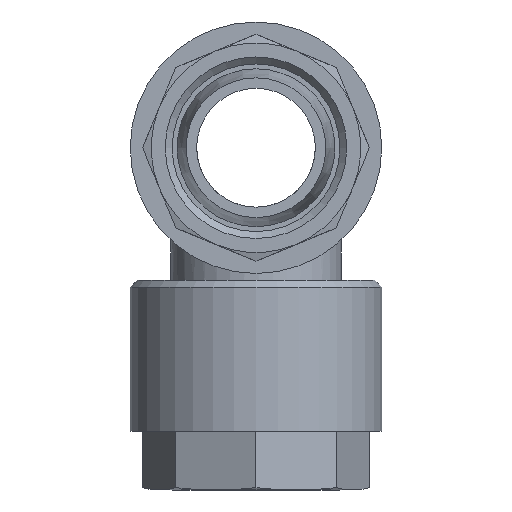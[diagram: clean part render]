
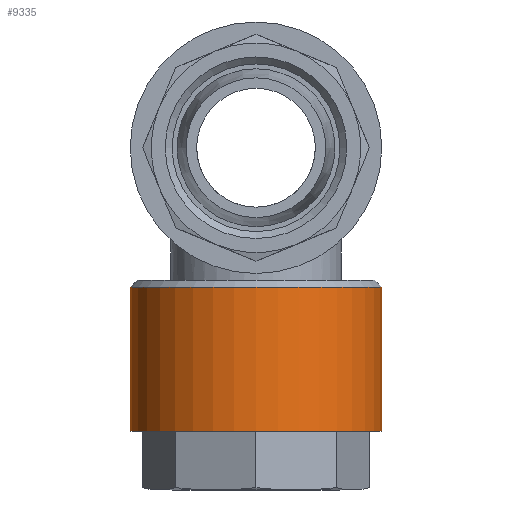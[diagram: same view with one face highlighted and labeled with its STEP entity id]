
A CAD part, left-side view. The second image highlights one B-rep face of the part: STEP entity #9335.
In plain terms, the highlighted cylindrical face has radius 9 mm (diameter 18 mm), a full revolution.
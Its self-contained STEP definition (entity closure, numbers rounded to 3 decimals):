
#3226=CYLINDRICAL_SURFACE('',#9086,9.);
#3547=ORIENTED_EDGE('',*,*,#4266,.F.);
#3548=ORIENTED_EDGE('',*,*,#4267,.T.);
#3868=CIRCLE('',#9085,9.);
#3869=CIRCLE('',#9087,9.);
#4019=VERTEX_POINT('',#5854);
#4020=VERTEX_POINT('',#5857);
#4266=EDGE_CURVE('',#4019,#4019,#3868,.T.);
#4267=EDGE_CURVE('',#4020,#4020,#3869,.T.);
#4506=EDGE_LOOP('',(#3547));
#4507=EDGE_LOOP('',(#3548));
#4712=FACE_BOUND('',#4506,.T.);
#4713=FACE_BOUND('',#4507,.T.);
#5216=DIRECTION('',(0.,1.,0.));
#5217=DIRECTION('',(0.,0.,-9.));
#5218=DIRECTION('',(0.,1.,0.));
#5219=DIRECTION('',(1.,0.,0.));
#5220=DIRECTION('',(0.,1.,0.));
#5221=DIRECTION('',(0.,0.,9.));
#5854=CARTESIAN_POINT('',(26.989,25.395,-9.));
#5855=CARTESIAN_POINT('',(26.989,25.395,0.));
#5856=CARTESIAN_POINT('',(26.989,15.095,0.));
#5857=CARTESIAN_POINT('',(26.989,15.095,9.));
#5858=CARTESIAN_POINT('',(26.989,15.095,0.));
#9085=AXIS2_PLACEMENT_3D('',#5855,#5216,#5217);
#9086=AXIS2_PLACEMENT_3D('',#5856,#5218,#5219);
#9087=AXIS2_PLACEMENT_3D('',#5858,#5220,#5221);
#9335=ADVANCED_FACE('',(#4712,#4713),#3226,.T.);
